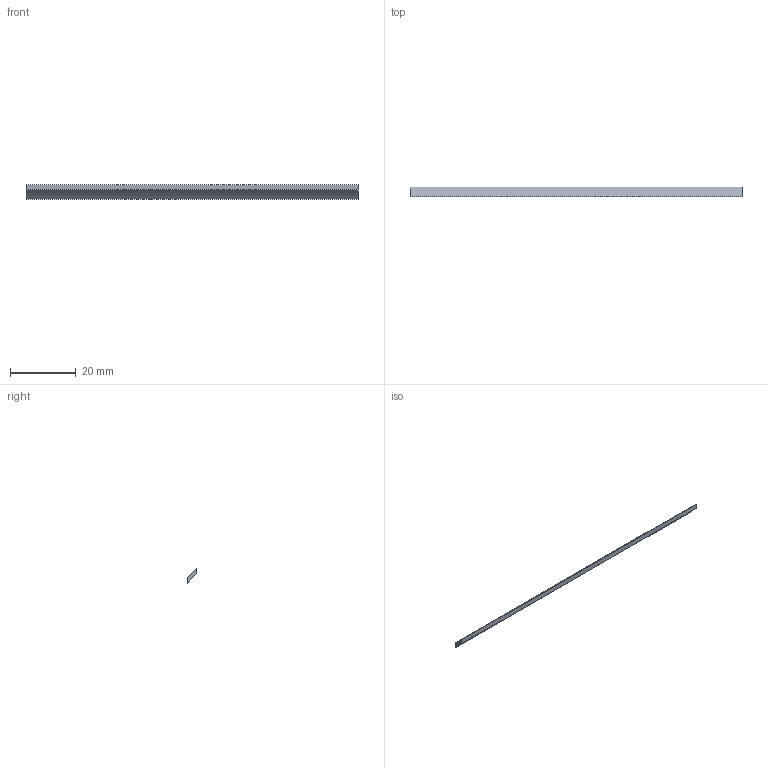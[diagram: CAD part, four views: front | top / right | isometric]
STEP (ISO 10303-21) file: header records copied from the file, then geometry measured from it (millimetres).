
FILE_DESCRIPTION(('SkyG Speed 90B - revision C6B-24 - 2026-10-17','HS-R-side-ledge-strip'),'2;1');
FILE_NAME('HS-R-side-ledge-strip_C6B-24','2026-10-17T19:57:43',('Author'),( 'Open CASCADE'),'Open CASCADE STEP processor 7.9','Open CASCADE 7.9' ,'Unknown');
FILE_SCHEMA(('AUTOMOTIVE_DESIGN { 1 0 10303 214 1 1 1 1 }'));
Length unit declared in the file: millimetre
Products named in the file (1): HS-R-side-ledge-strip C6B-24
Bounding box: 101.3 x 2.8 x 4.47 mm (x, y, z)
Volume: 453.3 mm3; surface area: 1153.5 mm2
Topology: 1 solids, 1 shells, 6 faces, 12 edges, 8 vertices
Faces by surface type: plane 5, cylinder 1
Entity records: 316 total; most frequent: CARTESIAN_POINT 59, DIRECTION 44, ORIENTED_EDGE 24, PCURVE 24, DEFINITIONAL_REPRESENTATION 24, LINE 24, VECTOR 24, EDGE_CURVE 12
